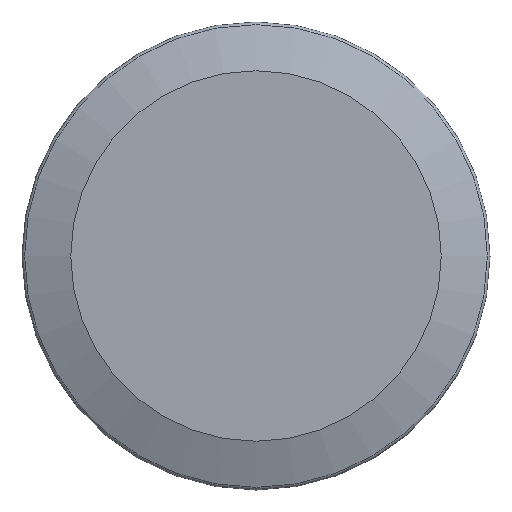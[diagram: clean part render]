
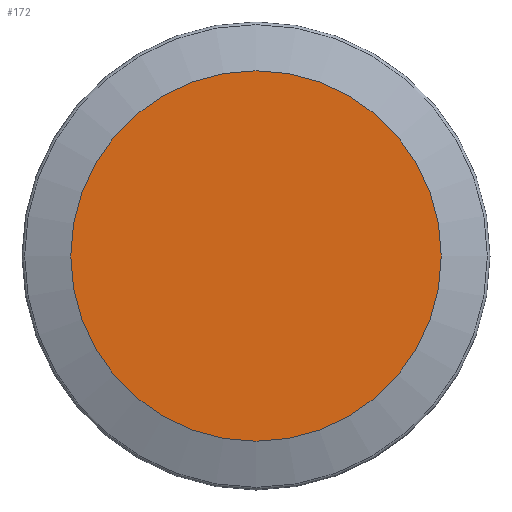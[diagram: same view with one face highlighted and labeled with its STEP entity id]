
A CAD part, left-side view. The second image highlights one B-rep face of the part: STEP entity #172.
In plain terms, the highlighted planar face has unit normal (-1, 0, 0).
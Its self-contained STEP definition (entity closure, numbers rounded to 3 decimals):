
#17=PLANE('',#223);
#40=FACE_OUTER_BOUND('',#52,.T.);
#52=EDGE_LOOP('',(#145));
#64=CIRCLE('',#211,36.021);
#78=VERTEX_POINT('',#310);
#95=EDGE_CURVE('',#78,#78,#64,.T.);
#145=ORIENTED_EDGE('',*,*,#95,.T.);
#172=ADVANCED_FACE('',(#40),#17,.F.);
#211=AXIS2_PLACEMENT_3D('',#312,#257,#258);
#223=AXIS2_PLACEMENT_3D('',#331,#284,#285);
#257=DIRECTION('center_axis',(-1.,0.,0.));
#258=DIRECTION('ref_axis',(0.,-1.,0.));
#284=DIRECTION('center_axis',(1.,0.,0.));
#285=DIRECTION('ref_axis',(0.,1.,0.));
#310=CARTESIAN_POINT('',(-38.498,-15.286,0.));
#312=CARTESIAN_POINT('Origin',(-38.498,20.735,0.));
#331=CARTESIAN_POINT('Origin',(-38.498,56.757,0.));
